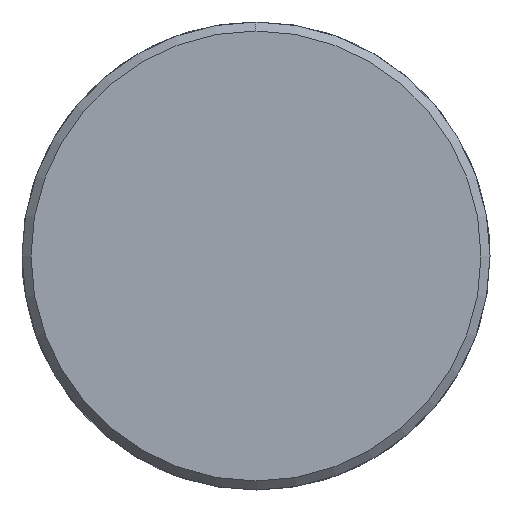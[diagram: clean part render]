
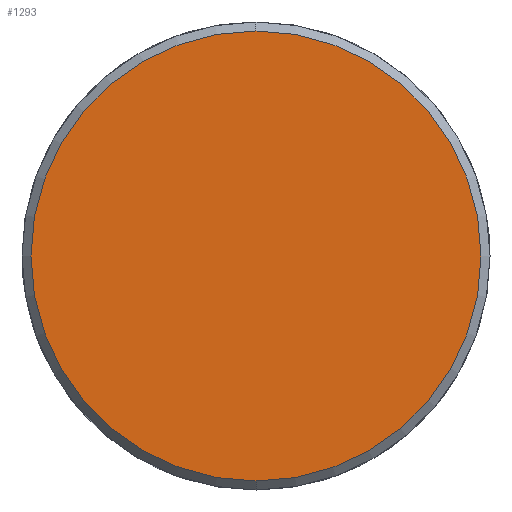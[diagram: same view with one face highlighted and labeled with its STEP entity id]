
A CAD part, left-side view. The second image highlights one B-rep face of the part: STEP entity #1293.
In plain terms, the highlighted planar face has unit normal (-1, 0, 0).
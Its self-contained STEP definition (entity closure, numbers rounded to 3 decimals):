
#1225=CARTESIAN_POINT('Vertex',(-8.,0.,-25.)) ;
#1228=CARTESIAN_POINT('Axis2P3D Location',(-8.,0.,0.)) ;
#1232=CARTESIAN_POINT('Vertex',(-8.,25.,0.)) ;
#1235=CARTESIAN_POINT('Axis2P3D Location',(-8.,0.,0.)) ;
#1239=CARTESIAN_POINT('Vertex',(-8.,0.,25.)) ;
#1261=CARTESIAN_POINT('Axis2P3D Location',(-8.,0.,0.)) ;
#1265=CARTESIAN_POINT('Vertex',(-8.,-25.,0.)) ;
#1268=CARTESIAN_POINT('Axis2P3D Location',(-8.,0.,0.)) ;
#1282=CARTESIAN_POINT('Axis2P3D Location',(-8.,0.,0.)) ;
#1229=DIRECTION('Axis2P3D Direction',(1.,0.,-0.)) ;
#1236=DIRECTION('Axis2P3D Direction',(1.,0.,-0.)) ;
#1262=DIRECTION('Axis2P3D Direction',(1.,0.,-0.)) ;
#1269=DIRECTION('Axis2P3D Direction',(1.,0.,-0.)) ;
#1283=DIRECTION('Axis2P3D Direction',(1.,0.,-0.)) ;
#1284=DIRECTION('Axis2P3D XDirection',(-0.,0.,-1.)) ;
#1230=AXIS2_PLACEMENT_3D('Circle Axis2P3D',#1228,#1229,$) ;
#1237=AXIS2_PLACEMENT_3D('Circle Axis2P3D',#1235,#1236,$) ;
#1263=AXIS2_PLACEMENT_3D('Circle Axis2P3D',#1261,#1262,$) ;
#1270=AXIS2_PLACEMENT_3D('Circle Axis2P3D',#1268,#1269,$) ;
#1285=AXIS2_PLACEMENT_3D('Plane Axis2P3D',#1282,#1283,#1284) ;
#1288=ORIENTED_EDGE('',*,*,#1234,.F.) ;
#1289=ORIENTED_EDGE('',*,*,#1272,.F.) ;
#1290=ORIENTED_EDGE('',*,*,#1267,.F.) ;
#1291=ORIENTED_EDGE('',*,*,#1241,.F.) ;
#1293=ADVANCED_FACE('351-40X86X240',(#1292),#1286,.F.) ;
#1231=CIRCLE('generated circle',#1230,25.) ;
#1238=CIRCLE('generated circle',#1237,25.) ;
#1264=CIRCLE('generated circle',#1263,25.) ;
#1271=CIRCLE('generated circle',#1270,25.) ;
#1234=EDGE_CURVE('',#1226,#1233,#1231,.T.) ;
#1241=EDGE_CURVE('',#1233,#1240,#1238,.T.) ;
#1267=EDGE_CURVE('',#1240,#1266,#1264,.T.) ;
#1272=EDGE_CURVE('',#1266,#1226,#1271,.T.) ;
#1287=EDGE_LOOP('',(#1288,#1289,#1290,#1291)) ;
#1292=FACE_OUTER_BOUND('',#1287,.T.) ;
#1286=PLANE('Plane',#1285) ;
#1226=VERTEX_POINT('',#1225) ;
#1233=VERTEX_POINT('',#1232) ;
#1240=VERTEX_POINT('',#1239) ;
#1266=VERTEX_POINT('',#1265) ;
